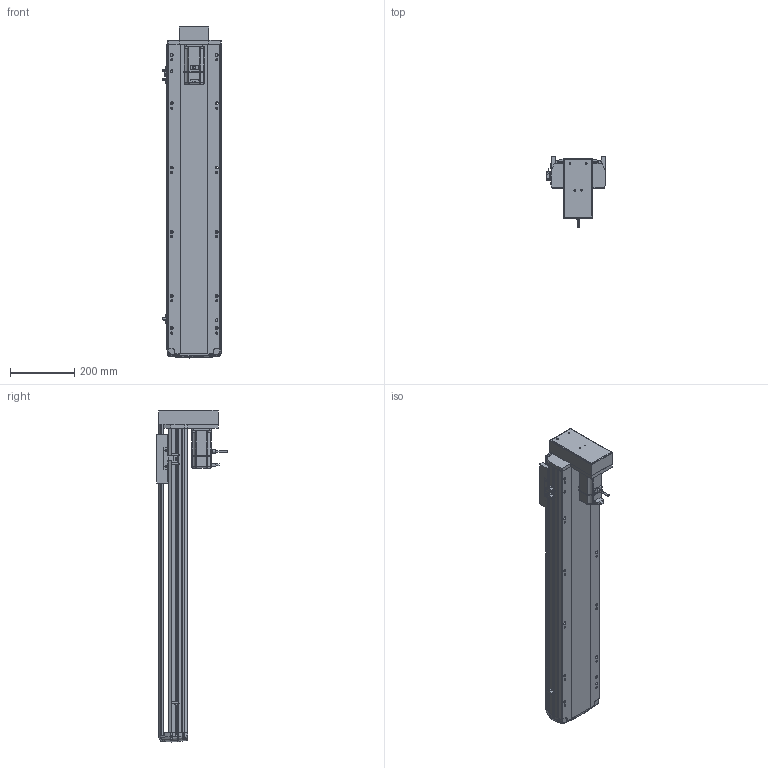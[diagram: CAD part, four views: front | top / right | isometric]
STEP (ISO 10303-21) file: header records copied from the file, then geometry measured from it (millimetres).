
FILE_DESCRIPTION (( 'STEP AP214' ), '1' );
FILE_NAME ('RTH17-XX-750-M-M40-C4.STEP', '2025-10-24T09:07:11', ( '' ), ( '' ), 'SwSTEP 2.0', 'SolidWorks 2018', '' );
FILE_SCHEMA (( 'AUTOMOTIVE_DESIGN' ));
Length unit declared in the file: millimetre
Products named in the file (10): N_RTH17-M-007上盖^RTH17-XX-XX-M-M40-C4（方程式）; N_M40^RTH17-XX-XX-M-M40-C4（方程式）; N_RTH17-E-004丝杆螺母连接座^RTH17-XX-XX-M-M40-C4（方程式）; N_RTH-BL-012 感应片(外置)^RTH17-XX-XX-M-M40-C4（方程式）; N_RTH17-M-018盖子^RTH17-XX-XX-M-M40-C4（方程式）; RTH17-XX-750-M-M40-C4; N_OMRON EE-SX672 換覜ん^RTH17-XX-XX-M-M40-C4ㄗ源最宒ㄘ; N_RTH17-M-011底座^RTH17-XX-XX-M-M40-C4（方程式）; N_RTH17-GY-001P^RTH17-XX-XX-M-M40-C4（方程式）; N_RTH17-M-008-P40电机安装板下折^RTH17-XX-XX-M-M40-C4（方程式）
Assembly tree (11 placements, depth 2):
  RTH17-XX-750-M-M40-C4
    N_RTH17-M-011底座^RTH17-XX-XX-M-M40-C4（方程式）
    N_RTH17-M-007上盖^RTH17-XX-XX-M-M40-C4（方程式）
    N_M40^RTH17-XX-XX-M-M40-C4（方程式）
    N_OMRON EE-SX672 換覜ん^RTH17-XX-XX-M-M40-C4ㄗ源最宒ㄘ  x3
    N_RTH-BL-012 感应片(外置)^RTH17-XX-XX-M-M40-C4（方程式）
    N_RTH17-M-008-P40电机安装板下折^RTH17-XX-XX-M-M40-C4（方程式）
    N_RTH17-M-018盖子^RTH17-XX-XX-M-M40-C4（方程式）
    N_RTH17-E-004丝杆螺母连接座^RTH17-XX-XX-M-M40-C4（方程式）
    N_RTH17-GY-001P^RTH17-XX-XX-M-M40-C4（方程式）
Bounding box: 183.5 x 219 x 1033.19 mm (x, y, z)
Volume: 8144670.2 mm3; surface area: 1174960.5 mm2
Topology: 10 solids, 12 shells, 1663 faces, 4644 edges, 3028 vertices
Faces by surface type: plane 832, cylinder 464, bspline 330, cone 28, torus 9
Entity records: 48672 total; most frequent: CARTESIAN_POINT 19660, ORIENTED_EDGE 6312, DIRECTION 5200, EDGE_CURVE 3160, VERTEX_POINT 2064, VECTOR 1774, LINE 1774, AXIS2_PLACEMENT_3D 1713
